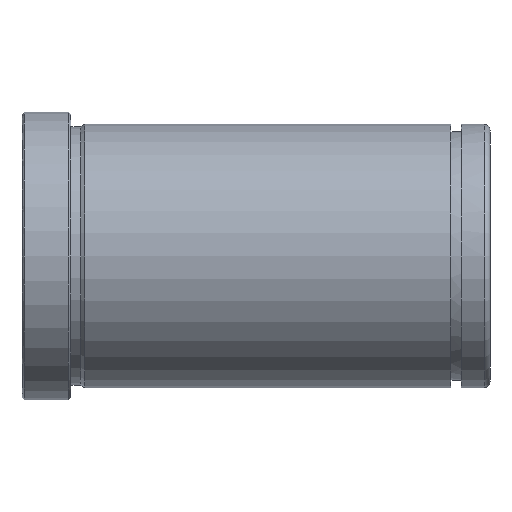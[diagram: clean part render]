
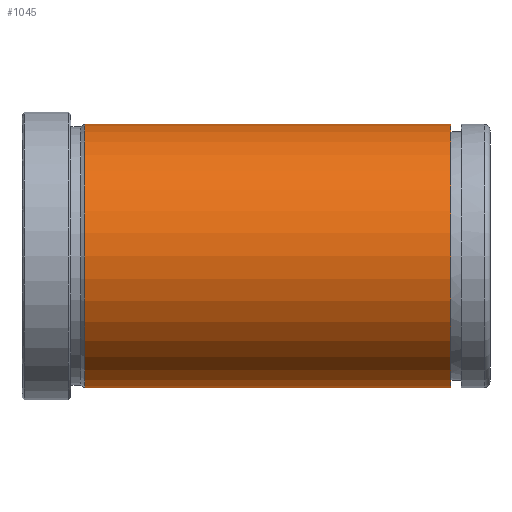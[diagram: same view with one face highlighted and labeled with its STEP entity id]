
A CAD part, front view. The second image highlights one B-rep face of the part: STEP entity #1045.
In plain terms, the highlighted cylindrical face has radius 27 mm (diameter 54 mm), a partial arc.
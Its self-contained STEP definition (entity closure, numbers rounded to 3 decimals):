
#851=CARTESIAN_POINT('Vertex',(12.866,0.,-27.)) ;
#858=CARTESIAN_POINT('Vertex',(12.866,0.,27.)) ;
#887=CARTESIAN_POINT('Axis2P3D Location',(12.866,0.,0.)) ;
#891=CARTESIAN_POINT('Vertex',(12.866,-27.,0.)) ;
#894=CARTESIAN_POINT('Axis2P3D Location',(12.866,0.,0.)) ;
#985=CARTESIAN_POINT('Line Origine',(192.,0.,27.)) ;
#989=CARTESIAN_POINT('Vertex',(88.,0.,27.)) ;
#1003=CARTESIAN_POINT('Vertex',(88.,0.,-27.)) ;
#1006=CARTESIAN_POINT('Line Origine',(192.,0.,-27.)) ;
#1020=CARTESIAN_POINT('Axis2P3D Location',(192.,0.,0.)) ;
#1025=CARTESIAN_POINT('Axis2P3D Location',(88.,0.,0.)) ;
#1029=CARTESIAN_POINT('Vertex',(88.,-27.,0.)) ;
#1032=CARTESIAN_POINT('Axis2P3D Location',(88.,0.,0.)) ;
#888=DIRECTION('Axis2P3D Direction',(1.,0.,-0.)) ;
#895=DIRECTION('Axis2P3D Direction',(1.,0.,-0.)) ;
#986=DIRECTION('Vector Direction',(-1.,0.,0.)) ;
#1007=DIRECTION('Vector Direction',(-1.,0.,0.)) ;
#1021=DIRECTION('Axis2P3D Direction',(-1.,-0.,-0.)) ;
#1022=DIRECTION('Axis2P3D XDirection',(0.,0.,-1.)) ;
#1026=DIRECTION('Axis2P3D Direction',(-1.,-0.,-0.)) ;
#1033=DIRECTION('Axis2P3D Direction',(-1.,-0.,-0.)) ;
#889=AXIS2_PLACEMENT_3D('Circle Axis2P3D',#887,#888,$) ;
#896=AXIS2_PLACEMENT_3D('Circle Axis2P3D',#894,#895,$) ;
#1023=AXIS2_PLACEMENT_3D('Cylinder Axis2P3D',#1020,#1021,#1022) ;
#1027=AXIS2_PLACEMENT_3D('Circle Axis2P3D',#1025,#1026,$) ;
#1034=AXIS2_PLACEMENT_3D('Circle Axis2P3D',#1032,#1033,$) ;
#1038=ORIENTED_EDGE('',*,*,#1010,.T.) ;
#1039=ORIENTED_EDGE('',*,*,#1031,.F.) ;
#1040=ORIENTED_EDGE('',*,*,#1036,.F.) ;
#1041=ORIENTED_EDGE('',*,*,#991,.T.) ;
#1042=ORIENTED_EDGE('',*,*,#898,.T.) ;
#1043=ORIENTED_EDGE('',*,*,#893,.T.) ;
#987=VECTOR('Line Direction',#986,1.) ;
#1008=VECTOR('Line Direction',#1007,1.) ;
#1045=ADVANCED_FACE('553-40X96',(#1044),#1024,.T.) ;
#890=CIRCLE('generated circle',#889,27.) ;
#897=CIRCLE('generated circle',#896,27.) ;
#1028=CIRCLE('generated circle',#1027,27.) ;
#1035=CIRCLE('generated circle',#1034,27.) ;
#1024=CYLINDRICAL_SURFACE('generated cylinder',#1023,27.) ;
#893=EDGE_CURVE('',#892,#852,#890,.T.) ;
#898=EDGE_CURVE('',#859,#892,#897,.T.) ;
#991=EDGE_CURVE('',#990,#859,#988,.T.) ;
#1010=EDGE_CURVE('',#852,#1004,#1009,.F.) ;
#1031=EDGE_CURVE('',#1030,#1004,#1028,.F.) ;
#1036=EDGE_CURVE('',#990,#1030,#1035,.F.) ;
#1037=EDGE_LOOP('',(#1038,#1039,#1040,#1041,#1042,#1043)) ;
#1044=FACE_OUTER_BOUND('',#1037,.T.) ;
#988=LINE('Line',#985,#987) ;
#1009=LINE('Line',#1006,#1008) ;
#852=VERTEX_POINT('',#851) ;
#859=VERTEX_POINT('',#858) ;
#892=VERTEX_POINT('',#891) ;
#990=VERTEX_POINT('',#989) ;
#1004=VERTEX_POINT('',#1003) ;
#1030=VERTEX_POINT('',#1029) ;
